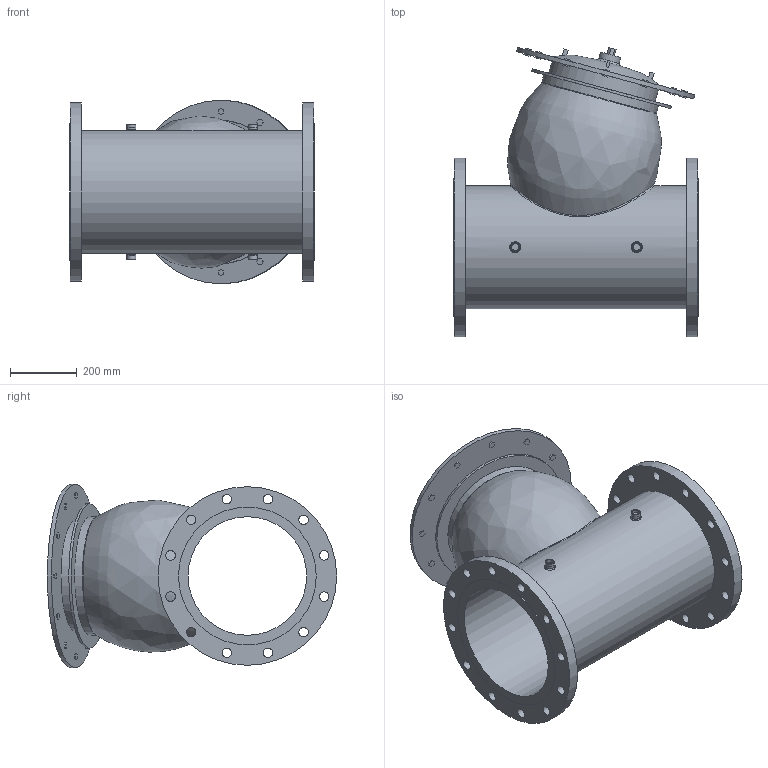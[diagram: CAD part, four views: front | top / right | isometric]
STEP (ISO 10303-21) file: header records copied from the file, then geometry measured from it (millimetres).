
FILE_DESCRIPTION(/* description */ ('VIC FP VALVE PRESSURE RELIEF SERIES 867-7UF (FLG 150)','CAx-IF Rec.Pracs.---Representation and Presentation of Product Manufacturing Information (PMI)---4.0---2014-10-13'),/* implementation_level */ '2;1');
FILE_NAME(/* name */ 'C:\Series 867-7UF\New folder (2)\step\Victaulic_FP-Bermad_Valve Pressure Relief_Series 867-7UF (FLG 150)\Victaulic_FP-Bermad_Valve Pressure Relief_Series 867-7UF (FLG 150)_14 (350).stp',/* time_stamp */ '2021-09-02T12:09:34+06:00',/* author */ ('kkamble'),/* organization */ ('Victaulic'),/* preprocessor_version */ 'ST-DEVELOPER v17.2',/* originating_system */ 'Autodesk Inventor 2019',/* authorisation */ '');
FILE_SCHEMA (('AP242_MANAGED_MODEL_BASED_3D_ENGINEERING_MIM_LF { 1 0 10303 442 1 1 4 }'));
Length unit declared in the file: inch
Products named in the file (1): 867-7UF-14.0
Bounding box: 733.04 x 866.66 x 550.16 mm (x, y, z)
Volume: 67280544.9 mm3; surface area: 3177275.3 mm2
Topology: 1 solids, 1 shells, 266 faces, 680 edges, 461 vertices
Faces by surface type: plane 214, cylinder 43, bspline 7, torus 2
Full cylindrical faces by diameter (mm): 21.336 x4, 26.873 x4, 28.575 x24, 63.5 x1, 330.2 x1, 355.6 x2, 368.3 x1, 412.75 x2, 431.8 x1, 534.924 x2, 550.164 x1
Entity records: 9402 total; most frequent: CARTESIAN_POINT 2363, ORIENTED_EDGE 1368, DIRECTION 1313, EDGE_CURVE 684, LINE 529, VECTOR 529, VERTEX_POINT 465, AXIS2_PLACEMENT_3D 392
